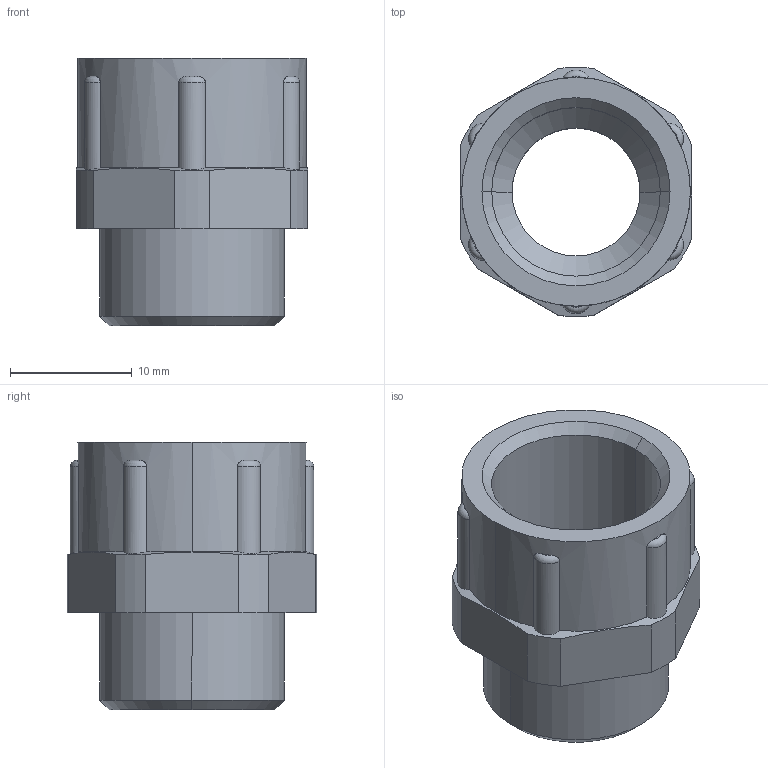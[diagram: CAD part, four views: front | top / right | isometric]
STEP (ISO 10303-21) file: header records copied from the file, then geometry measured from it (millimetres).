
FILE_DESCRIPTION (( 'STEP AP203' ), '1' );
FILE_NAME ('06309 PAU.STEP', '2006-12-08T07:10:37', ( ' ' ), ( '' ), 'SwSTEP 2.0', 'SolidWorks 2005278', '' );
FILE_SCHEMA (( 'CONFIG_CONTROL_DESIGN' ));
Length unit declared in the file: millimetre
Products named in the file (1): 06309 PAU
Bounding box: 19 x 20.48 x 22 mm (x, y, z)
Volume: 2815.8 mm3; surface area: 2452.3 mm2
Topology: 1 solids, 1 shells, 88 faces, 234 edges, 152 vertices
Faces by surface type: plane 52, cylinder 20, cone 8, torus 8
Entity records: 2941 total; most frequent: CARTESIAN_POINT 665, ORIENTED_EDGE 468, DIRECTION 446, EDGE_CURVE 234, VERTEX_POINT 152, AXIS2_PLACEMENT_3D 149, LINE 148, VECTOR 148
